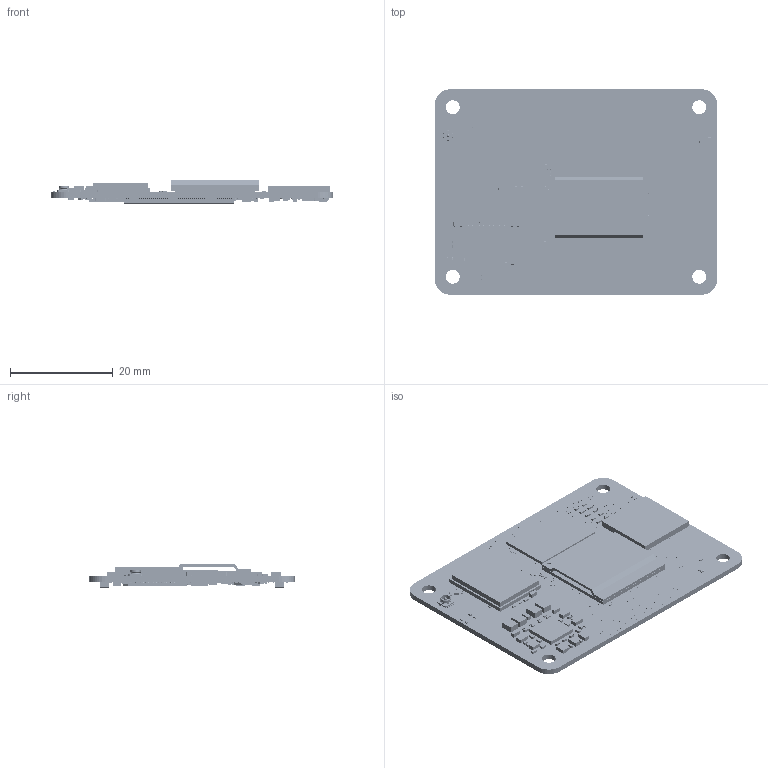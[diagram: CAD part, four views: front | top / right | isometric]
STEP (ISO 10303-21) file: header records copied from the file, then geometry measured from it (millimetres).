
FILE_DESCRIPTION(('STEP AP214'),'1');
FILE_NAME('CM5R5-3dstep.step','2024-09-17T15:08:17',(' '),(' '),'Spatial InterOp 3D',' ',' ');
FILE_SCHEMA(('AUTOMOTIVE_DESIGN { 1 0 10303 214 1 1 1 1 }'));
Length unit declared in the file: millimetre
Products named in the file (422): Shapes; SILKSCREEN_TOP; Dielectric; SILKSCREEN_BOTTOM; CM5r5.brd; Symbols; BOURNS_SRP201208; BOURNS_SRP2512; BROADCOM_BCM2712A0; CAPC0603; CAPC0603_ALT; CAPC1005; CAPC1608; CONNDF40C-100DP-04V; DFN1006B-3; DIALOG_DA9091; DIALOG_SLG59M1446; FBC1005; POWERDI3333-8; RESC0603; RESC1005; RM0_FOOTPRINT_V2; RPI_RP1C; SAMSUNG_KLM4G1YE4C-B00X; SDRAM-LPDDR4-X32-D2-BGA200; SKYWORKS_SKY13351-378LF; UFL; USON_2X3MM; XTAL2000X1600; XTAL2_200X120; XTAL320X250X100
Assembly tree (421 placements, depth 3):
  CM5r5.brd
    Shapes
      SILKSCREEN_TOP
      Dielectric
      SILKSCREEN_BOTTOM
    Symbols
      BOURNS_SRP201208
      BOURNS_SRP201208
      BOURNS_SRP201208
      BOURNS_SRP201208
      BOURNS_SRP201208
      BOURNS_SRP201208
      BOURNS_SRP201208
      BOURNS_SRP2512
      BOURNS_SRP2512
      BOURNS_SRP2512
      BOURNS_SRP2512
      BROADCOM_BCM2712A0
      CAPC0603
      CAPC0603
      CAPC0603
      CAPC0603
      CAPC0603
      CAPC0603
      CAPC0603
      CAPC0603
      CAPC0603
      CAPC0603
      CAPC0603
      CAPC0603
      CAPC0603
      CAPC0603
      CAPC0603
      CAPC0603
      CAPC0603
      CAPC0603
      CAPC0603
      CAPC0603
      CAPC0603
      CAPC0603
      CAPC0603
      CAPC0603
      CAPC0603
      CAPC0603
      CAPC0603
      CAPC0603
      CAPC0603
      CAPC0603
      CAPC0603
      CAPC0603
      CAPC0603
      CAPC0603
      CAPC0603
      CAPC0603
      CAPC0603
      CAPC0603
      CAPC0603
      CAPC0603
      CAPC0603
      CAPC0603
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Bounding box: 55 x 40 x 4.62 mm (x, y, z)
Volume: 3556.5 mm3; surface area: 10176.6 mm2
Topology: 1471 solids, 1472 shells, 44403 faces, 117408 edges, 79909 vertices
Faces by surface type: plane 23972, cylinder 13607, sphere 4230, bspline 2548, torus 32, cone 14
Entity records: 1763019 total; most frequent: CARTESIAN_POINT 457744, DIRECTION 222499, ORIENTED_EDGE 221406, EDGE_CURVE 110704, LINE 75579, VECTOR 75579, AXIS2_PLACEMENT_3D 73460, VERTEX_POINT 70613
